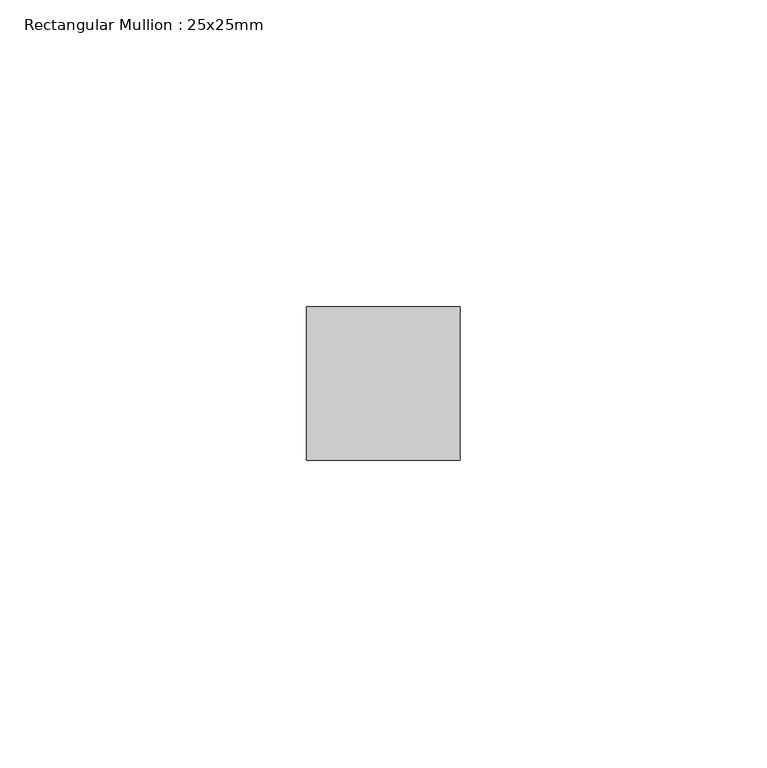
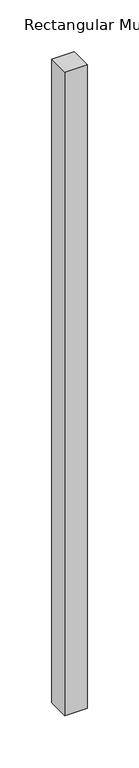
"""IFC4 building model written with IfcOpenShell, lengths in millimetres: member geometry, Rectangular Mullion : 25x25mm."""

from ifc_helpers import new_model, si_unit, frame, origin, place, context, project, spatial, polyline, outline, extrude, source, transform, mapped, element, save


def rectangular_mullion_25x25mm_7ee1a1d8(model_context):
    return source(origin(), model_context, "Body", "SweptSolid", [
        extrude(outline(polyline([(0.0, 24.5), (0.0, -0.5), (-25.0, -0.5), (-25.0, 24.5), (0.0, 24.5)])), frame((0.0, 0.0, -760.0000001), z_axis=(0.0, 0.0, 1.0), x_axis=(1.0, 0.0, 0.0)), (0.0, 0.0, 1.0), 760.0000001),
    ])


if __name__ == "__main__":
    model = new_model("IFC4")
    model_context = context("Model", 3, world=origin())
    ifc_project = project(units=[si_unit("LENGTHUNIT", "METRE", prefix="MILLI")], contexts=[model_context])
    site = spatial("IfcSite", under=ifc_project)
    building = spatial("IfcBuilding", under=site)
    placement = place(None, origin())
    rectangular_mullion_25x25mm_shape = rectangular_mullion_25x25mm_7ee1a1d8(model_context)
    element("IfcMember", 1, ObjectType="Rectangular Mullion : 25x25mm", at=placement, inside=building, context=model_context, shape_type="MappedRepresentation", body=[
        mapped(rectangular_mullion_25x25mm_shape, transform((0.0, 0.0, 0.0), x_axis=(1.0, 0.0, 0.0), y_axis=(0.0, 1.0, 0.0), z_axis=(0.0, 0.0, 1.0))),
    ])
    save(model, "model.ifc")
